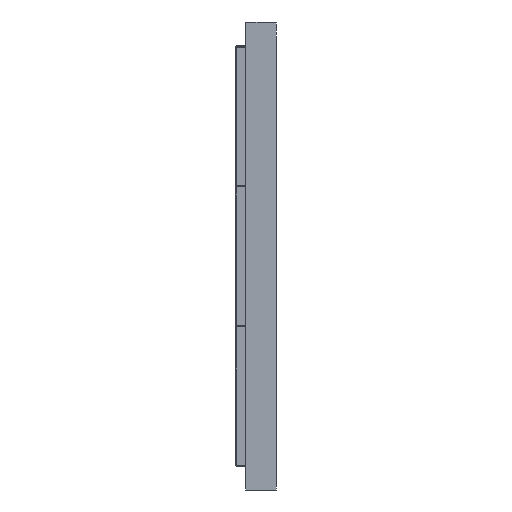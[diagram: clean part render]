
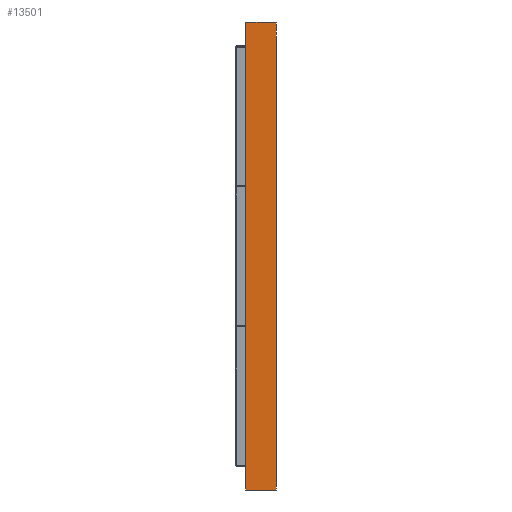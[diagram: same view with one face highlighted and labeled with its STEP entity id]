
A CAD part, left-side view. The second image highlights one B-rep face of the part: STEP entity #13501.
In plain terms, the highlighted planar face has unit normal (-0.999, 0, -0.035).
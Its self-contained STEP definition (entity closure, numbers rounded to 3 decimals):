
#183 = CARTESIAN_POINT ( 'NONE',  ( -60.08, 81.69, 190.881 ) ) ;
#521 = EDGE_LOOP ( 'NONE', ( #4900, #1342, #13602, #24232 ) ) ;
#868 = LINE ( 'NONE', #23683, #10312 ) ;
#1342 = ORIENTED_EDGE ( 'NONE', *, *, #3922, .F. ) ;
#1346 = EDGE_CURVE ( 'NONE', #11743, #12333, #11362, .T. ) ;
#1813 = VECTOR ( 'NONE', #1885, 1000. ) ;
#1885 = DIRECTION ( 'NONE',  ( 0., -1., 0. ) ) ;
#3922 = EDGE_CURVE ( 'NONE', #23946, #18983, #11169, .T. ) ;
#4900 = ORIENTED_EDGE ( 'NONE', *, *, #18847, .T. ) ;
#5444 = FACE_OUTER_BOUND ( 'NONE', #521, .T. ) ;
#6586 = DIRECTION ( 'NONE',  ( -0.035, 0., 0.999 ) ) ;
#7510 = CARTESIAN_POINT ( 'NONE',  ( -53.655, 93.69, 6.881 ) ) ;
#9031 = CARTESIAN_POINT ( 'NONE',  ( -53.655, 81.69, 6.881 ) ) ;
#10310 = VECTOR ( 'NONE', #20528, 1000. ) ;
#10312 = VECTOR ( 'NONE', #6586, 1000. ) ;
#11169 = LINE ( 'NONE', #15173, #10310 ) ;
#11362 = LINE ( 'NONE', #7510, #1813 ) ;
#11743 = VERTEX_POINT ( 'NONE', #23828 ) ;
#12333 = VERTEX_POINT ( 'NONE', #20630 ) ;
#12924 = LINE ( 'NONE', #9031, #15025 ) ;
#13501 = ADVANCED_FACE ( 'NONE', ( #5444 ), #24157, .F. ) ;
#13602 = ORIENTED_EDGE ( 'NONE', *, *, #14447, .F. ) ;
#14447 = EDGE_CURVE ( 'NONE', #11743, #23946, #868, .T. ) ;
#14671 = AXIS2_PLACEMENT_3D ( 'NONE', #16812, #16559, #20542 ) ;
#14677 = DIRECTION ( 'NONE',  ( -0.035, 0., 0.999 ) ) ;
#15025 = VECTOR ( 'NONE', #14677, 1000. ) ;
#15173 = CARTESIAN_POINT ( 'NONE',  ( -60.08, 93.69, 190.881 ) ) ;
#16559 = DIRECTION ( 'NONE',  ( 0.999, 0., 0.035 ) ) ;
#16812 = CARTESIAN_POINT ( 'NONE',  ( -53.655, 93.69, 6.881 ) ) ;
#18847 = EDGE_CURVE ( 'NONE', #12333, #18983, #12924, .T. ) ;
#18983 = VERTEX_POINT ( 'NONE', #183 ) ;
#20528 = DIRECTION ( 'NONE',  ( 0., -1., 0. ) ) ;
#20542 = DIRECTION ( 'NONE',  ( 0.035, 0., -0.999 ) ) ;
#20630 = CARTESIAN_POINT ( 'NONE',  ( -53.655, 81.69, 6.881 ) ) ;
#21060 = CARTESIAN_POINT ( 'NONE',  ( -60.08, 93.69, 190.881 ) ) ;
#23683 = CARTESIAN_POINT ( 'NONE',  ( -53.655, 93.69, 6.881 ) ) ;
#23828 = CARTESIAN_POINT ( 'NONE',  ( -53.655, 93.69, 6.881 ) ) ;
#23946 = VERTEX_POINT ( 'NONE', #21060 ) ;
#24157 = PLANE ( 'NONE',  #14671 ) ;
#24232 = ORIENTED_EDGE ( 'NONE', *, *, #1346, .T. ) ;
